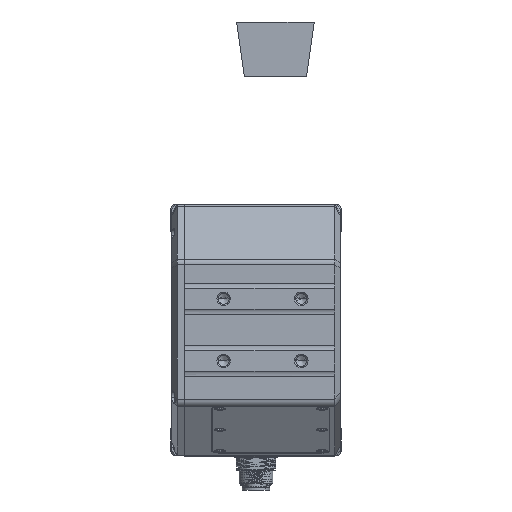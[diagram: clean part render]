
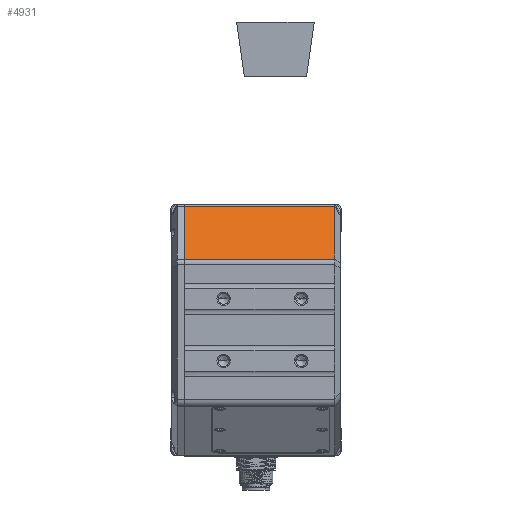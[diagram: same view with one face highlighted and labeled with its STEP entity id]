
A CAD part, left-side view. The second image highlights one B-rep face of the part: STEP entity #4931.
In plain terms, the highlighted planar face has unit normal (-0.707, 0, 0.707).
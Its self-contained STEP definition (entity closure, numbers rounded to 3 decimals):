
#766=DIRECTION('',(-0.707,0.,-0.707));
#767=VECTOR('',#766,28.627);
#768=CARTESIAN_POINT('',(-107.629,-30.5,47.621));
#769=LINE('',#768,#767);
#770=DIRECTION('',(0.,1.,0.));
#771=VECTOR('',#770,58.);
#772=CARTESIAN_POINT('',(-127.871,-30.5,27.379));
#773=LINE('',#772,#771);
#774=DIRECTION('',(-0.707,0.,-0.707));
#775=VECTOR('',#774,28.627);
#776=CARTESIAN_POINT('',(-107.629,27.5,47.621));
#777=LINE('',#776,#775);
#778=DIRECTION('',(0.,-1.,0.));
#779=VECTOR('',#778,58.);
#780=CARTESIAN_POINT('',(-107.629,27.5,47.621));
#781=LINE('',#780,#779);
#3670=CARTESIAN_POINT('',(-107.629,27.5,47.621));
#3672=VERTEX_POINT('',#3670);
#3675=CARTESIAN_POINT('',(-127.871,27.5,27.379));
#3677=VERTEX_POINT('',#3675);
#3720=CARTESIAN_POINT('',(-107.629,-30.5,47.621));
#3721=CARTESIAN_POINT('',(-127.871,-30.5,27.379));
#3722=VERTEX_POINT('',#3720);
#3723=VERTEX_POINT('',#3721);
#4916=CARTESIAN_POINT('',(-106.75,-50.,48.5));
#4917=DIRECTION('',(0.707,0.,-0.707));
#4918=DIRECTION('',(-0.707,0.,-0.707));
#4919=AXIS2_PLACEMENT_3D('',#4916,#4917,#4918);
#4920=PLANE('',#4919);
#4922=ORIENTED_EDGE('',*,*,#4921,.T.);
#4924=ORIENTED_EDGE('',*,*,#4923,.T.);
#4926=ORIENTED_EDGE('',*,*,#4925,.F.);
#4928=ORIENTED_EDGE('',*,*,#4927,.T.);
#4929=EDGE_LOOP('',(#4922,#4924,#4926,#4928));
#4930=FACE_OUTER_BOUND('',#4929,.F.);
#4931=ADVANCED_FACE('',(#4930),#4920,.F.);
#4921=EDGE_CURVE('',#3722,#3723,#769,.T.);
#4923=EDGE_CURVE('',#3723,#3677,#773,.T.);
#4925=EDGE_CURVE('',#3672,#3677,#777,.T.);
#4927=EDGE_CURVE('',#3672,#3722,#781,.T.);
